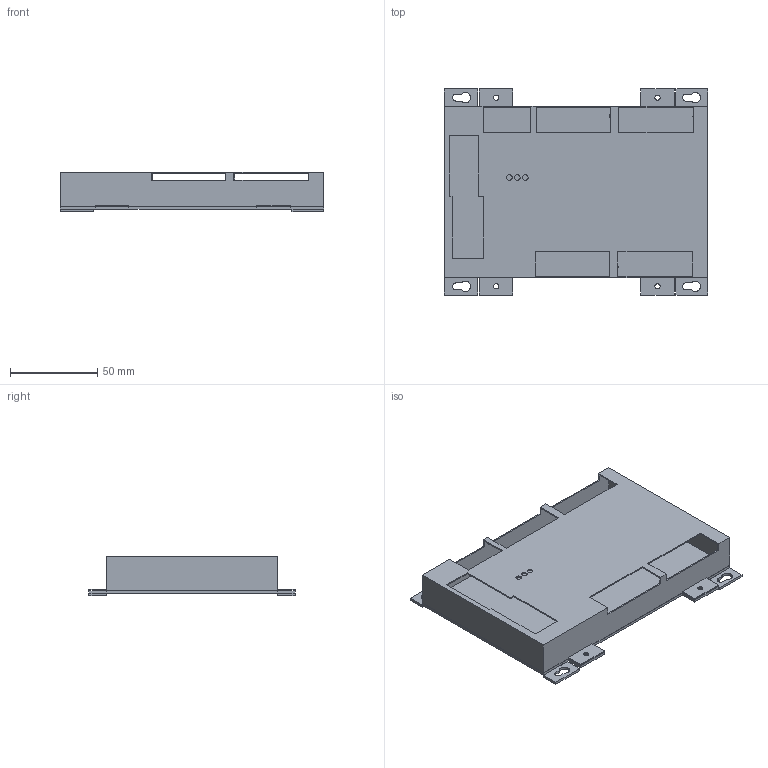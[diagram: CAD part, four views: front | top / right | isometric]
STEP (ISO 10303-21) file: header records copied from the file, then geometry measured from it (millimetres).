
FILE_DESCRIPTION (( 'STEP AP203' ), '1' );
FILE_NAME ('ECI032-2020-08-24.STEP', '2024-12-30T02:08:35', ( '' ), ( '' ), 'SwSTEP 2.0', 'SolidWorks 2020', '' );
FILE_SCHEMA (( 'CONFIG_CONTROL_DESIGN' ));
Length unit declared in the file: millimetre
Products named in the file (1): ECI032-2020-08-24
Bounding box: 151.2 x 118.32 x 22.8 mm (x, y, z)
Volume: 38689.9 mm3; surface area: 75393.7 mm2
Topology: 6 solids, 6 shells, 185 faces, 516 edges, 334 vertices
Faces by surface type: plane 115, cylinder 58, cone 12
Entity records: 5977 total; most frequent: CARTESIAN_POINT 1024, ORIENTED_EDGE 1008, DIRECTION 992, EDGE_CURVE 504, VECTOR 388, LINE 388, VERTEX_POINT 334, AXIS2_PLACEMENT_3D 302
